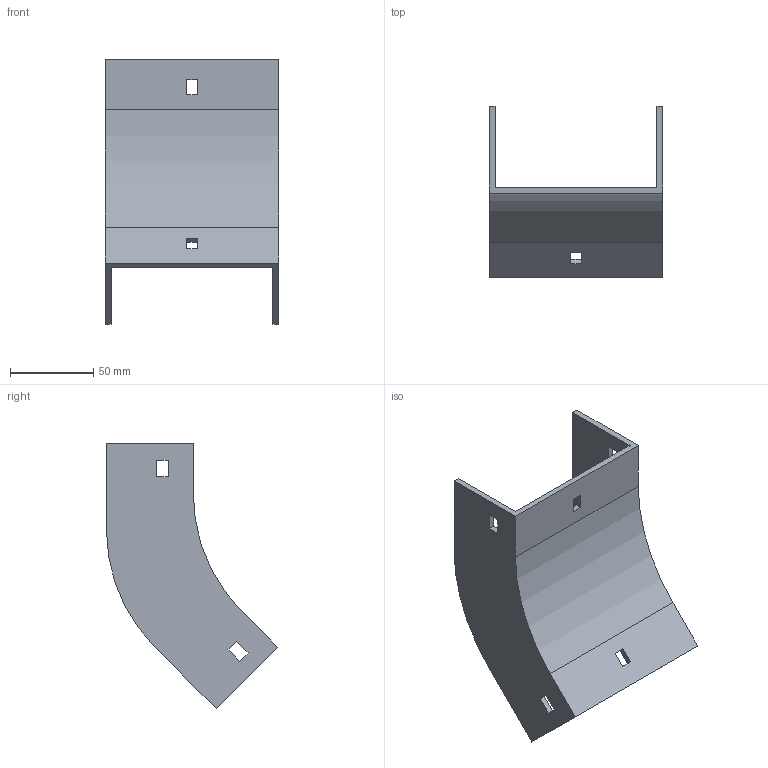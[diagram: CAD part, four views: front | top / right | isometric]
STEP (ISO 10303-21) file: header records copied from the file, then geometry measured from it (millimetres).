
FILE_DESCRIPTION (( 'STEP AP214' ), '1' );
FILE_NAME ('34F1B100.step', '2025-02-21T12:50:47', ( '' ), ( '' ), 'SwSTEP 2.0', 'SolidWorks 2023', '' );
FILE_SCHEMA (( 'AUTOMOTIVE_DESIGN' ));
Length unit declared in the file: millimetre
Products named in the file (1): 34F1B100
Bounding box: 104 x 102.5 x 158.69 mm (x, y, z)
Volume: 105946.4 mm3; surface area: 63902.5 mm2
Topology: 1 solids, 1 shells, 42 faces, 120 edges, 80 vertices
Faces by surface type: plane 38, cylinder 4
Entity records: 1399 total; most frequent: CARTESIAN_POINT 243, ORIENTED_EDGE 240, DIRECTION 214, EDGE_CURVE 120, LINE 112, VECTOR 112, VERTEX_POINT 80, EDGE_LOOP 54
